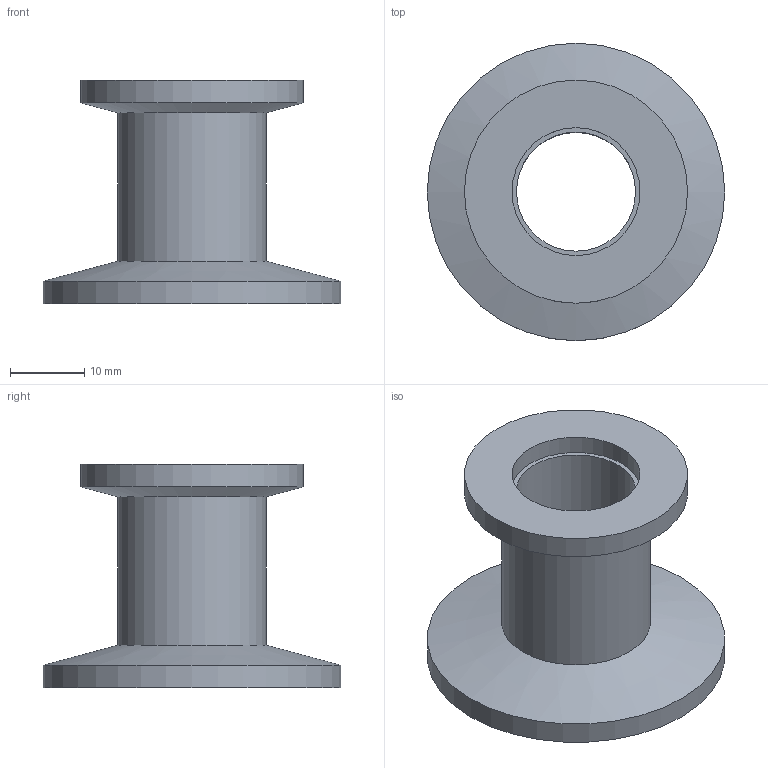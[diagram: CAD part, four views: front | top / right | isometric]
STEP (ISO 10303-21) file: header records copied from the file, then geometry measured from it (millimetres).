
FILE_DESCRIPTION( ( 'Unknown' ), '1' );
FILE_NAME( 'X:/Daten ( aktueller Bestand )/Projekte und Zeichnungen/Solid Edge/1 Kleinflanschverzweigungen/POM/Reduzierstück POM/1062P.stp', 'Unknown', ( 'Unknown' ), ( 'Unknown' ), 'XStep 1.0', 'Unknown', ' ' );
FILE_SCHEMA( ( 'automotive_design' ) );
Length unit declared in the file: millimetre
Products named in the file (1): 1
Bounding box: 40 x 40 x 30 mm (x, y, z)
Volume: 8102.3 mm3; surface area: 6736.7 mm2
Topology: 1 solids, 1 shells, 14 faces, 23 edges, 14 vertices
Faces by surface type: cylinder 7, plane 5, cone 2
Full cylindrical faces by diameter (mm): 16 x1, 17.2 x1, 19.7 x1, 20 x1, 26.2 x1, 30 x1, 40 x1
Entity records: 416 total; most frequent: DIRECTION 58, CARTESIAN_POINT 43, AXIS2_PLACEMENT_3D 29, EDGE_LOOP 28, ORIENTED_EDGE 28, FACE_OUTER_BOUND 21, STYLED_ITEM 14, PRESENTATION_STYLE_ASSIGNMENT 14
